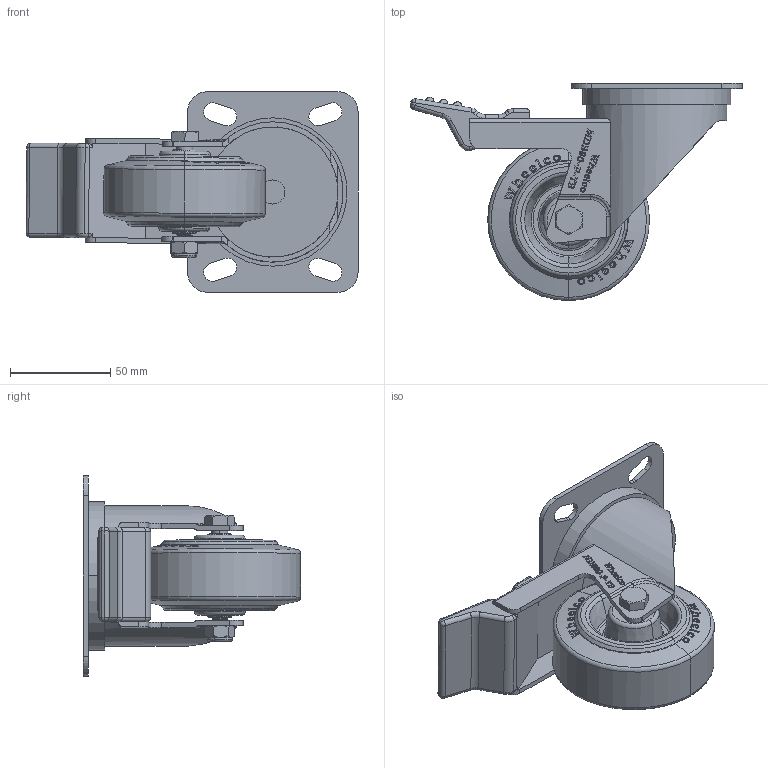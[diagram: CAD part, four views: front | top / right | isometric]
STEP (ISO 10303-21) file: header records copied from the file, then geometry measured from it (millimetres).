
FILE_DESCRIPTION (( 'STEP AP214' ), '1' );
FILE_NAME ('MDB80-P-TB.step', '2024-01-21T22:15:42', ( '' ), ( '' ), 'SwSTEP 2.0', 'SolidWorks 2022', '' );
FILE_SCHEMA (( 'AUTOMOTIVE_DESIGN' ));
Length unit declared in the file: millimetre
Products named in the file (7): MCB80; SP12-8-41; M8x55; MCB80-P-TB; M8Nyloc; 100X85 ANGLED; MDB80-P-TB
Assembly tree (6 placements, depth 2):
  MDB80-P-TB
    M8x55
    M8Nyloc
    SP12-8-41
    MCB80
    MCB80-P-TB
    100X85 ANGLED
Bounding box: 165.59 x 108.25 x 100 mm (x, y, z)
Volume: 239226.5 mm3; surface area: 87689.5 mm2
Topology: 6 solids, 6 shells, 969 faces, 2556 edges, 1665 vertices
Faces by surface type: plane 436, bspline 226, cylinder 203, torus 55, cone 42, sphere 7
Entity records: 48047 total; most frequent: CARTESIAN_POINT 24026, ORIENTED_EDGE 5104, DIRECTION 3673, EDGE_CURVE 2552, VERTEX_POINT 1663, VECTOR 1383, LINE 1383, AXIS2_PLACEMENT_3D 1145
